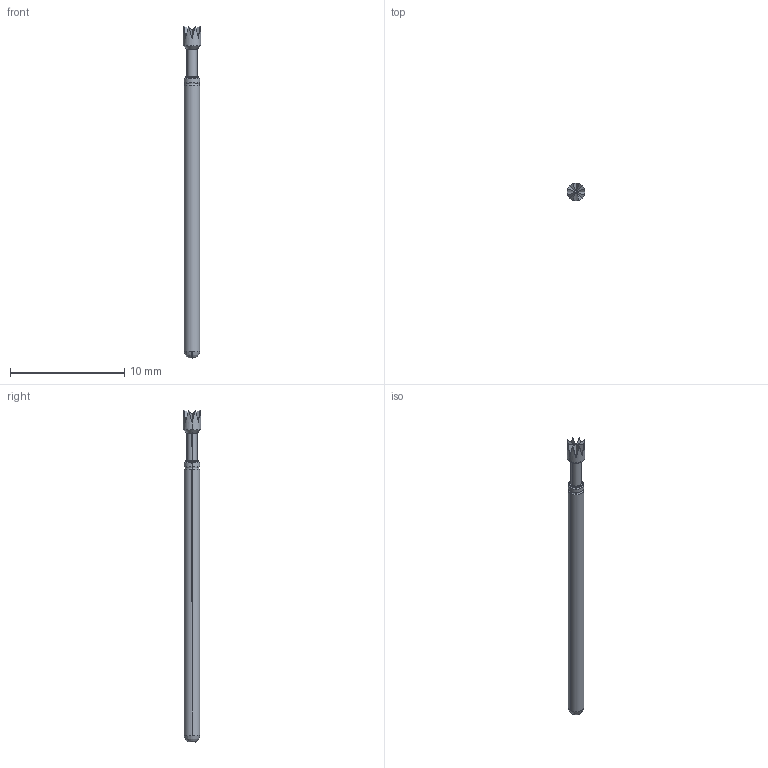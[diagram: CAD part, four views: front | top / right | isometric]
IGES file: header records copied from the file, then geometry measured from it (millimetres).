
Start section: SolidWorks IGES file using analytic representation for surfaces
Global section: file name: C:\Users\gzetwo.ECT\Desktop\LTP-25\LTP-25Z RECD.IGS; native system: SolidWorks 2015; preprocessor: SolidWorks 2015; author: gzetwo; date: 160107.163826; units: inch
Bounding box: 1.52 x 1.52 x 29.08 mm (x, y, z)
Surface area: 128.5 mm2 (no closed solid volume)
Topology: 0 solids, 0 shells, 38 faces, 210 edges, 210 vertices
Faces by surface type: bspline 22, revolution 16
